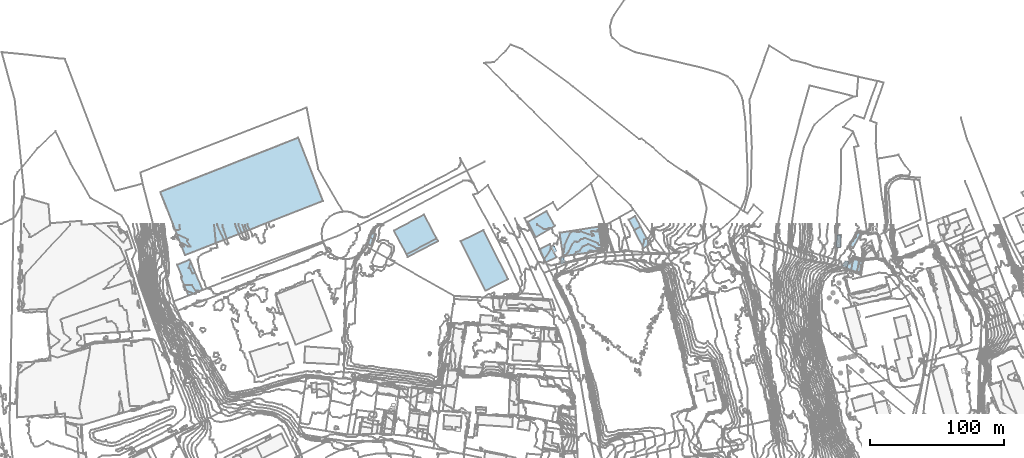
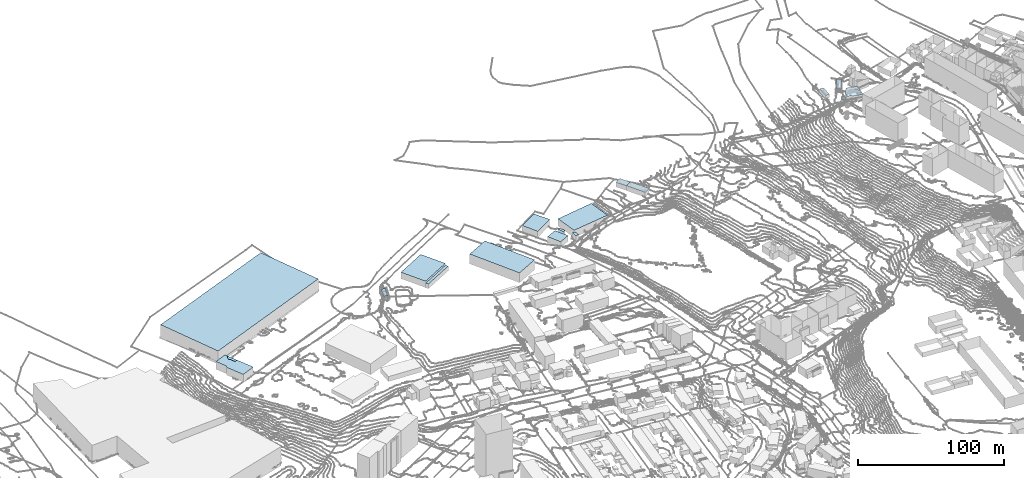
# Not in any storey, part 94 of 419: 18 roofs.
"""IFC2X3 model written with IfcOpenShell, lengths in metres."""

from ifc_helpers import new_model, si_unit, frame, origin_with_axes, place, context, subcontext, project, faceted_brep, element, save


model = new_model("IFC2X3")

# Units and contexts
model_context = context("Model", 3, precision=1e-05, world=origin_with_axes())
body_context = subcontext(model_context, "Body", "Model", "MODEL_VIEW")
ifc_project = project(units=[si_unit("AREAUNIT", "SQUARE_METRE"), si_unit("LENGTHUNIT", "METRE")], contexts=[model_context])

# Roofs
roof_1_placement = place(None, frame((662.4920204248, 1027.9976909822, 61.445799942), z_axis=(0.0, 0.0, 1.0), x_axis=(1.0, 0.0, 0.0)))
element("IfcRoof", 1, at=roof_1_placement, Name="Toiture 0", ShapeType="NOTDEFINED", context=body_context, shape_type="Brep", body=[
    faceted_brep([(12.0, -10.5, 4.054200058), (4.7999999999, 2.6000000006, 4.054200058), (0.0, 0.0, 4.054200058), (7.1, -13.3999999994, 4.054200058)], [[[0, 1, 2]], [[2, 3, 0]]]),
])
roof_2_placement = place(None, frame((600.8920204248, 1015.5976909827, 52.0179985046), z_axis=(0.0, 0.0, 1.0), x_axis=(1.0, 0.0, 0.0)))
element("IfcRoof", 2, at=roof_2_placement, Name="Toiture 0", ShapeType="NOTDEFINED", context=body_context, shape_type="Brep", body=[
    faceted_brep([(0.0, 0.0, 6.0), (1.8999999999, -4.2999999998, 6.0), (3.8999999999, -3.2000000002, 6.0), (2.0, 0.7000000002, 6.0)], [[[0, 1, 2]], [[2, 3, 0]]]),
])
roof_3_placement = place(None, frame((817.6920204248, 1001.4976909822, 95.6800018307), z_axis=(0.0, 0.0, 1.0), x_axis=(1.0, 0.0, 0.0)))
element("IfcRoof", 3, at=roof_3_placement, Name="Toiture 0", ShapeType="NOTDEFINED", context=body_context, shape_type="Brep", body=[
    faceted_brep([(1.9, 3.8000000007, 3.3199981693), (0.0, 0.0, 3.3199981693), (3.1, -1.1999999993, 3.3199981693), (4.6, 3.0, 3.3199981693)], [[[0, 1, 2]], [[2, 3, 0]]]),
])
roof_4_placement = place(None, frame((607.8920204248, 1007.5976909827, 53.5594993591), z_axis=(0.0, 0.0, 1.0), x_axis=(1.0, 0.0, 0.0)))
element("IfcRoof", 4, at=roof_4_placement, Name="Toiture 0", ShapeType="NOTDEFINED", context=body_context, shape_type="Brep", body=[
    faceted_brep([(0.0, 0.0, 3.9405006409), (0.2, -4.5, 3.9405006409), (2.7, -3.9000000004, 3.9405006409), (2.2, 0.2000000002, 3.9405006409)], [[[0, 1, 2]], [[2, 3, 0]]]),
])
roof_5_placement = place(None, frame((492.8920204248, 1009.9976909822, 50.3296007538), z_axis=(0.0, 0.0, 1.0), x_axis=(1.0, 0.0, 0.0)))
element("IfcRoof", 5, at=roof_5_placement, Name="Toiture 0", ShapeType="NOTDEFINED", context=body_context, shape_type="Brep", body=[
    faceted_brep([(22.5, 11.8000000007, 3.8703992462), (0.0, 0.0, 3.8703992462), (1.0, -2.0, 3.8703992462), (23.6, 9.8000000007, 3.8703992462)], [[[0, 1, 2]], [[2, 3, 0]]]),
])
roof_6_placement = place(None, frame((322.0920204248, 1002.1976909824, 46.5999984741), z_axis=(0.0, 0.0, 1.0), x_axis=(1.0, 0.0, 0.0)))
element("IfcRoof", 6, at=roof_6_placement, Name="Toiture 0", ShapeType="NOTDEFINED", context=body_context, shape_type="Brep", body=[
    faceted_brep([(18.9, -18.5, 6.4000015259), (13.5, -5.7999999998, 6.4000015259), (11.4, -6.5999999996, 6.4000015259), (9.8, -3.0, 6.4000015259), (8.6, -2.2999999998, 6.4000015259), (10.1, 2.2000000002, 6.4000015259), (9.4, 3.9000000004, 6.4000015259), (0.0, 0.0, 6.4000015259), (3.7, -8.7999999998, 6.4000015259), (3.0, -9.2999999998, 6.4000015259), (3.1, -10.2000000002, 6.4000015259), (8.5, -22.8999999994, 6.4000015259)], [[[0, 1, 2]], [[2, 3, 4]], [[4, 5, 6]], [[6, 7, 8]], [[8, 9, 10]], [[10, 11, 0]], [[0, 2, 4]], [[4, 6, 8]], [[8, 10, 0]], [[0, 4, 8]]]),
])
roof_7_placement = place(None, frame((330.6920204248, 999.8976909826, 46.5999984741), z_axis=(0.0, 0.0, 1.0), x_axis=(1.0, 0.0, 0.0)))
element("IfcRoof", 7, at=roof_7_placement, Name="Toiture 0", ShapeType="NOTDEFINED", context=body_context, shape_type="Brep", body=[
    faceted_brep([(1.5, 4.5, 6.3000015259), (0.0, 0.0, 6.3000015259), (1.2000000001, -0.7000000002, 6.3000015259), (2.8, -4.2999999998, 6.3000015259), (4.9, -3.5, 6.3000015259)], [[[0, 1, 2]], [[2, 3, 4]], [[4, 0, 2]]]),
])
roof_8_placement = place(None, frame((483.5920204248, 1027.7976909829, 50.3763996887), z_axis=(0.0, 0.0, 1.0), x_axis=(1.0, 0.0, 0.0)))
element("IfcRoof", 8, at=roof_8_placement, Name="Toiture 0", ShapeType="NOTDEFINED", context=body_context, shape_type="Brep", body=[
    faceted_brep([(0.0, 0.0, 5.3236003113), (9.3, -17.8000000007, 5.3236003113), (31.8, -6.0, 5.3236003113), (22.5, 11.7999999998, 5.3236003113)], [[[0, 1, 2]], [[2, 3, 0]]]),
])
roof_9_placement = place(None, frame((583.3920204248, 1034.1976909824, 51.1739997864), z_axis=(0.0, 0.0, 1.0), x_axis=(1.0, 0.0, 0.0)))
element("IfcRoof", 9, at=roof_9_placement, Name="Toiture 0", ShapeType="NOTDEFINED", context=body_context, shape_type="Brep", body=[
    faceted_brep([(0.0, 0.0, 4.9260002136), (5.7, -11.5, 4.9260002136), (20.1, -3.0, 4.9260002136), (13.8999999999, 8.0, 4.9260002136)], [[[0, 1, 2]], [[2, 3, 0]]]),
])
roof_10_placement = place(None, frame((822.4920204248, 1016.5976909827, 96.8140013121), z_axis=(0.0, 0.0, 1.0), x_axis=(1.0, 0.0, 0.0)))
element("IfcRoof", 10, at=roof_10_placement, Name="Toiture 0", ShapeType="NOTDEFINED", context=body_context, shape_type="Brep", body=[
    faceted_brep([(8.7, 8.5, 0.7859986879), (5.9, 10.0999999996, 0.7859986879), (0.0, 0.0, 0.7859986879), (3.2, -1.7999999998, 0.7859986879)], [[[0, 1, 2]], [[2, 3, 0]]]),
])
roof_11_placement = place(None, frame((820.5920204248, 999.5976909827, 96.9673973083), z_axis=(0.0, 0.0, 1.0), x_axis=(1.0, 0.0, 0.0)))
element("IfcRoof", 11, at=roof_11_placement, Name="Toiture 0", ShapeType="NOTDEFINED", context=body_context, shape_type="Brep", body=[
    faceted_brep([(1.7, 4.8999999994, 5.2326026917), (0.0, 0.0, 5.2326026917), (11.0, -4.1000000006, 5.2326026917), (12.6, 6.7999999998, 5.2326026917), (4.9, 9.0, 5.2326026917)], [[[0, 1, 2]], [[2, 3, 4]], [[4, 0, 2]]]),
])
roof_12_placement = place(None, frame((606.9920204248, 1025.9976909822, 52.4879997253), z_axis=(0.0, 0.0, 1.0), x_axis=(1.0, 0.0, 0.0)))
element("IfcRoof", 12, at=roof_12_placement, Name="Toiture 0", ShapeType="NOTDEFINED", context=body_context, shape_type="Brep", body=[
    faceted_brep([(29.1, 4.6000000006, 5.9120002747), (0.0, 0.0, 5.9120002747), (2.7, -17.5, 5.9120002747), (31.7, -13.2999999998, 5.9120002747)], [[[0, 1, 2]], [[2, 3, 0]]]),
])
roof_13_placement = place(None, frame((309.5920204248, 1056.4976909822, 44.3300018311), z_axis=(0.0, 0.0, 1.0), x_axis=(1.0, 0.0, 0.0)))
element("IfcRoof", 13, at=roof_13_placement, Name="Toiture 0", ShapeType="NOTDEFINED", context=body_context, shape_type="Brep", body=[
    faceted_brep([(102.7, 40.3000000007, 10.9699981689), (0.0, 0.0, 10.9699981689), (18.4, -47.0999999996, 10.9699981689), (121.2, -6.6999999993, 10.9699981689)], [[[0, 1, 2]], [[2, 3, 0]]]),
])
roof_14_placement = place(None, frame((591.7920204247, 1013.6976909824, 51.6282003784), z_axis=(0.0, 0.0, 1.0), x_axis=(1.0, 0.0, 0.0)))
element("IfcRoof", 14, at=roof_14_placement, Name="Toiture 0", ShapeType="NOTDEFINED", context=body_context, shape_type="Brep", body=[
    faceted_brep([(0.0, 0.0, 4.5717996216), (4.7000000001, -9.7999999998, 4.5717996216), (12.8, -5.8999999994, 4.5717996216), (8.1000000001, 3.9000000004, 4.5717996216)], [[[0, 1, 2]], [[2, 3, 0]]]),
])
roof_15_placement = place(None, frame((533.3920204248, 1019.6976909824, 50.3425988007), z_axis=(0.0, 0.0, 1.0), x_axis=(1.0, 0.0, 0.0)))
element("IfcRoof", 15, at=roof_15_placement, Name="Toiture 0", ShapeType="NOTDEFINED", context=body_context, shape_type="Brep", body=[
    faceted_brep([(16.8999999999, 8.4000000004, 8.1574011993), (0.0, 0.0, 8.1574011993), (18.2999999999, -36.7999999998, 8.1574011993), (35.2, -28.2999999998, 8.1574011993)], [[[0, 1, 2]], [[2, 3, 0]]]),
])
roof_16_placement = place(None, frame((658.4920204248, 1035.6976909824, 61.3829990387), z_axis=(0.0, 0.0, 1.0), x_axis=(1.0, 0.0, 0.0)))
element("IfcRoof", 16, at=roof_16_placement, Name="Toiture 0", ShapeType="NOTDEFINED", context=body_context, shape_type="Brep", body=[
    faceted_brep([(4.2999999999, -7.5, 3.7170009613), (8.7999999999, -5.0999999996, 3.7170009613), (4.7999999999, 2.7999999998, 3.7170009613), (0.0, 0.0, 3.7170009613)], [[[0, 1, 2]], [[2, 3, 0]]]),
])
roof_17_placement = place(None, frame((463.8920204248, 1017.2976909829, 47.6540006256), z_axis=(0.0, 0.0, 1.0), x_axis=(1.0, 0.0, 0.0)))
element("IfcRoof", 17, at=roof_17_placement, Name="Toiture 0", ShapeType="NOTDEFINED", context=body_context, shape_type="Brep", body=[
    faceted_brep([(5.7, 7.5999999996, 1.1459993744), (2.5, 8.7999999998, 1.1459993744), (1.2, 5.2999999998, 1.1459993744), (1.7999999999, 5.0999999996, 1.1459993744), (0.0, 0.0, 1.1459993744), (2.6, -0.9000000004, 1.1459993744)], [[[0, 1, 2]], [[3, 4, 5]], [[0, 2, 3]], [[3, 5, 0]]]),
])
roof_18_placement = place(None, frame((813.0920204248, 1015.3976909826, 93.5100021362), z_axis=(0.0, 0.0, 1.0), x_axis=(1.0, 0.0, 0.0)))
element("IfcRoof", 18, at=roof_18_placement, Name="Toiture 0", ShapeType="NOTDEFINED", context=body_context, shape_type="Brep", body=[
    faceted_brep([(3.5, 8.7999999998, 2.4899978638), (0.4, 9.0999999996, 2.4899978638), (0.0, 0.0, 2.4899978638), (3.0, -0.2000000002, 2.4899978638)], [[[0, 1, 2]], [[2, 3, 0]]]),
])

save(model, "model.ifc")
